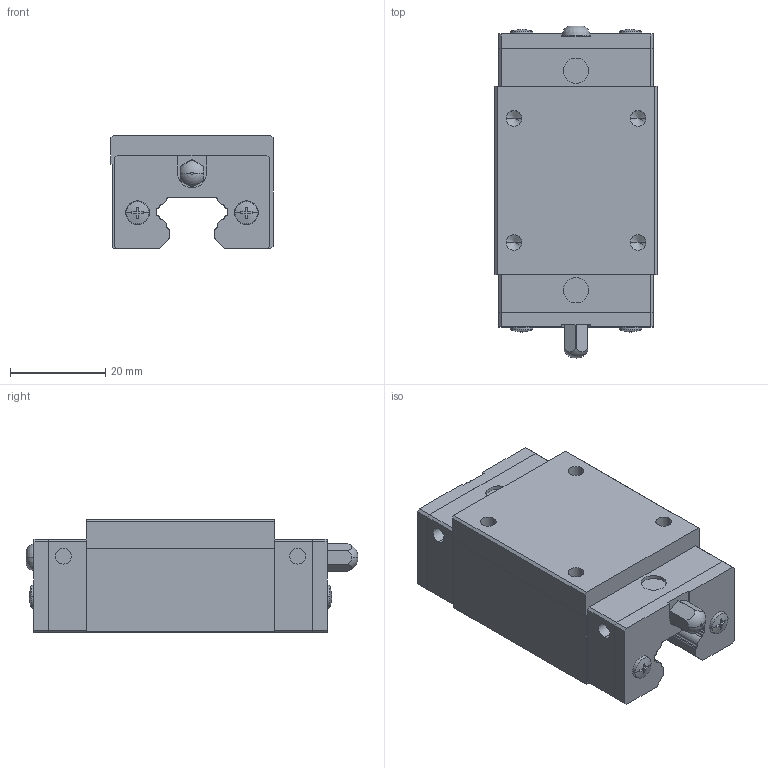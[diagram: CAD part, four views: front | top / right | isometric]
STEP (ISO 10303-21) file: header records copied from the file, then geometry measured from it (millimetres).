
FILE_DESCRIPTION(('FreeCAD Model'),'2;1');
FILE_NAME('Open CASCADE Shape Model','2021-05-03T09:24:13',('Author'),( ''),'Open CASCADE STEP processor 7.5','FreeCAD','Unknown');
FILE_SCHEMA(('AUTOMOTIVE_DESIGN { 1 0 10303 214 1 1 1 1 }'));
Length unit declared in the file: millimetre
Products named in the file (1): HGH15CA Z0 H SS
Bounding box: 34 x 69.56 x 23.7 mm (x, y, z)
Volume: 37394.2 mm3; surface area: 10565.4 mm2
Topology: 1 solids, 5 shells, 296 faces, 778 edges, 504 vertices
Faces by surface type: plane 162, cylinder 102, cone 28, sphere 2, revolution 2
Entity records: 21791 total; most frequent: CARTESIAN_POINT 5647, DIRECTION 2819, LINE 1719, VECTOR 1719, ORIENTED_EDGE 1540, PCURVE 1540, DEFINITIONAL_REPRESENTATION 1540, EDGE_CURVE 770
